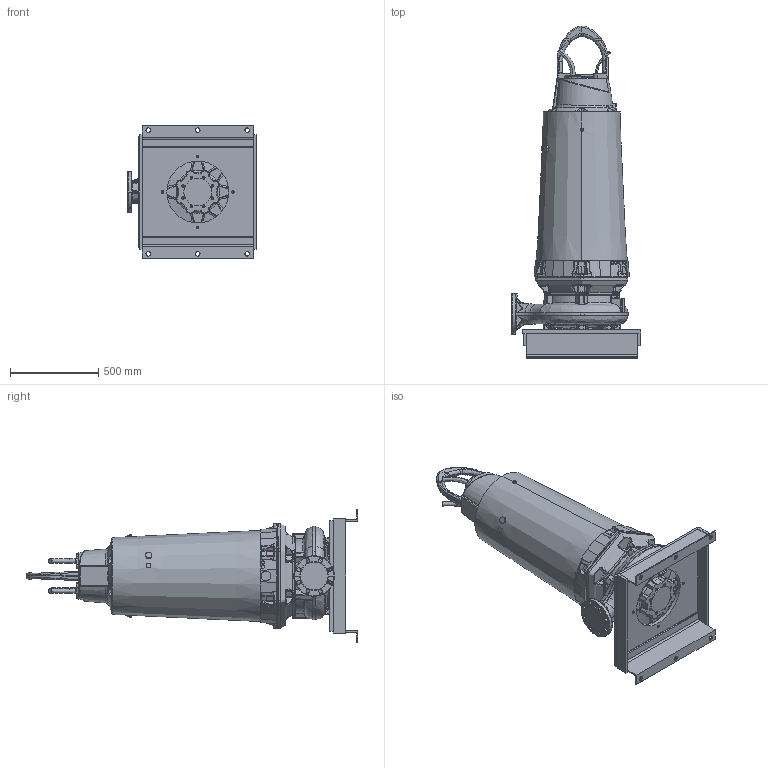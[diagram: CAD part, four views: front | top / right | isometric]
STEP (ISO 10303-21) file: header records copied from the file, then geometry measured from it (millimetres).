
FILE_DESCRIPTION (( 'STEP AP214' ), '1' );
FILE_NAME ('PE5_XFP100J-CH1_DRY_A_NG2.STEP', '2017-02-23T06:13:25', ( '' ), ( '' ), 'SwSTEP 2.0', 'SolidWorks 2017', '' );
FILE_SCHEMA (( 'AUTOMOTIVE_DESIGN' ));
Length unit declared in the file: millimetre
Products named in the file (1): PE5_XFP100J-CH1_DRY_A_NG2
Bounding box: 735 x 1879.47 x 750 mm (x, y, z)
Volume: 253579748.8 mm3; surface area: 4312505 mm2
Topology: 3 solids, 3 shells, 2314 faces, 5772 edges, 3445 vertices
Faces by surface type: bspline 801, cylinder 499, plane 475, cone 238, torus 231, sphere 70
Entity records: 165571 total; most frequent: CARTESIAN_POINT 91801, ORIENTED_EDGE 11424, DIRECTION 8513, EDGE_CURVE 5712, AXIS2_PLACEMENT_3D 3528, VERTEX_POINT 3445, EDGE_LOOP 2399, UNCERTAINTY_MEASURE_WITH_UNIT 2319
